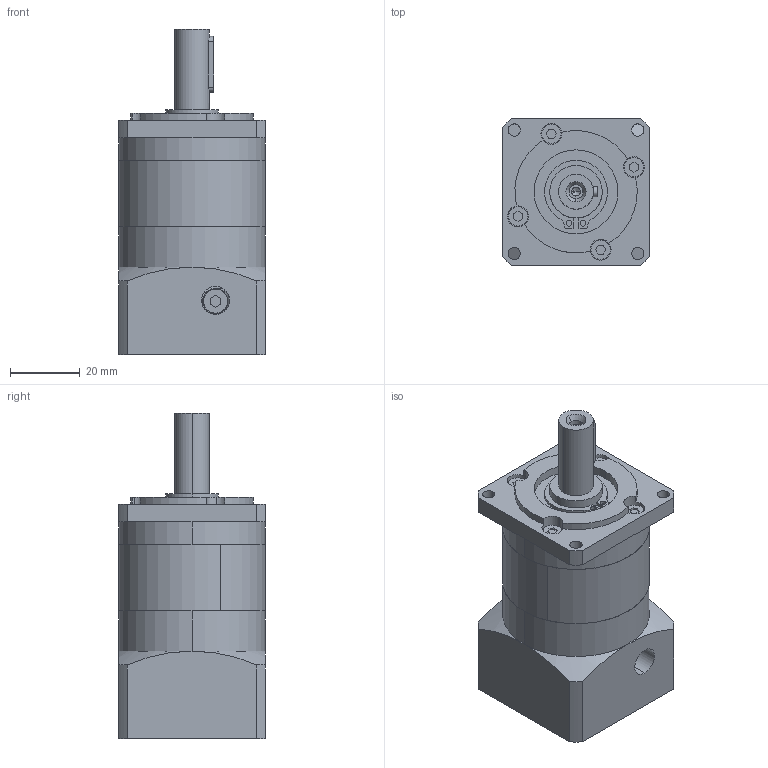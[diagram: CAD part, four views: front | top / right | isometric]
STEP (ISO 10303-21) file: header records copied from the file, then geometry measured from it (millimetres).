
FILE_DESCRIPTION (( 'STEP AP203' ), '1' );
FILE_NAME ('PLF040-L1-8-30-46输入轴长32.STEP', '2024-07-26T08:31:31', ( 'Windows User' ), ( 'P R C' ), 'SwSTEP 2.0', 'SolidWorks 2016', '' );
FILE_SCHEMA (( 'CONFIG_CONTROL_DESIGN' ));
Length unit declared in the file: millimetre
Products named in the file (7): 邧埴瑩 3x3x16_1; 囀鞠褒蹟佪-M4℅12_1; GB／T276-94深沟球轴承61902-2RZ_1; PLF040-L1-8-30-46输入轴长32; PLF40 奻屳唳_D1-70 D2-5.5 D3-14 D4-17 D5-50 L1-30 L2-35 L3-3 A1-60 S1-3 S2-20 S3-5 S4-18 B-5 H-16 C-M5 梓袧_1; PLF40 κｳﾝﾈｦ_ﾒｻｼｶﾄﾚｳﾝﾈｦ_1; PLF40 帣釱-8-30-M4-46-LR32_D6-60 D7-14 梓袧_1
Assembly tree (6 placements, depth 2):
  PLF040-L1-8-30-46输入轴长32
    PLF40 奻屳唳_D1-70 D2-5.5 D3-14 D4-17 D5-50 L1-30 L2-35 L3-3 A1-60 S1-3 S2-20 S3-5 S4-18 B-5 H-16 C-M5 梓袧_1
    PLF40 κｳﾝﾈｦ_ﾒｻｼｶﾄﾚｳﾝﾈｦ_1
    PLF40 帣釱-8-30-M4-46-LR32_D6-60 D7-14 梓袧_1
    邧埴瑩 3x3x16_1
    囀鞠褒蹟佪-M4℅12_1
    GB／T276-94深沟球轴承61902-2RZ_1
Bounding box: 42 x 42 x 93 mm (x, y, z)
Volume: 88607.4 mm3; surface area: 34220.6 mm2
Topology: 31 solids, 31 shells, 1140 faces, 3151 edges, 2081 vertices
Faces by surface type: plane 627, bspline 334, cylinder 165, cone 14
Entity records: 50593 total; most frequent: CARTESIAN_POINT 22769, ORIENTED_EDGE 6282, DIRECTION 4537, EDGE_CURVE 3141, VERTEX_POINT 2081, VECTOR 1693, LINE 1693, AXIS2_PLACEMENT_3D 1422
